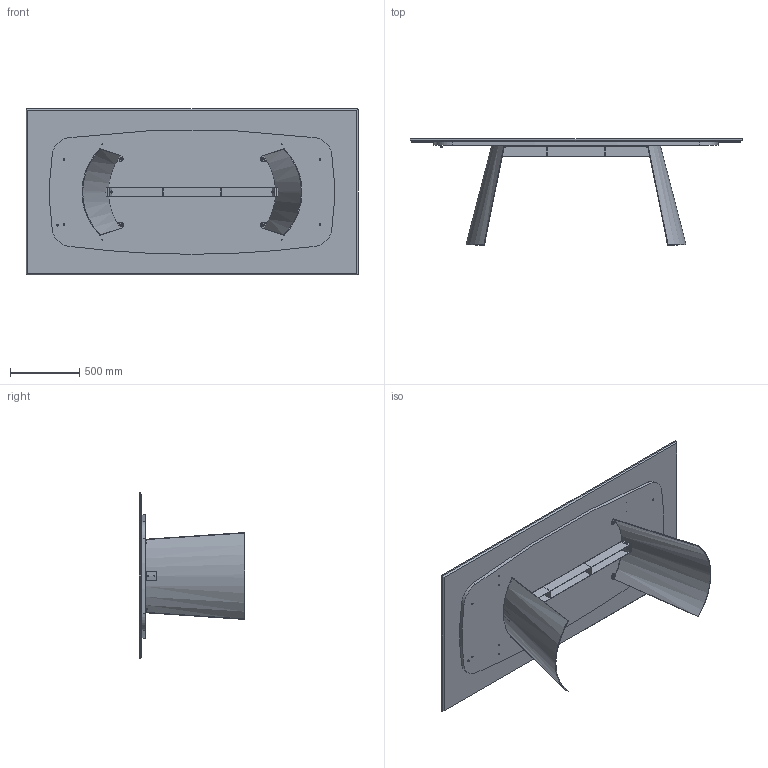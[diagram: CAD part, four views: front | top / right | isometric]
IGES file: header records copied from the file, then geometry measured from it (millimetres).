
Start section: SolidWorks IGES file using analytic representation for surfaces
Global section: file name: Y:\eforma\TECNICO\SOLIDWORKS\E-FORMA\1-TAVOLI\DORIAN\02 parts-rev 01\DN23M.IGS; native system: SolidWorks 2022; preprocessor: SolidWorks 2022; author: eforma.tech; date: 240807.170837; units: millimetre
Bounding box: 2400 x 765 x 1200 mm (x, y, z)
Volume: 106039912.8 mm3; surface area: 11990365.2 mm2
Topology: 38 solids, 38 shells, 633 faces, 1515 edges, 942 vertices
Faces by surface type: revolution 369, plane 246, bspline 18
